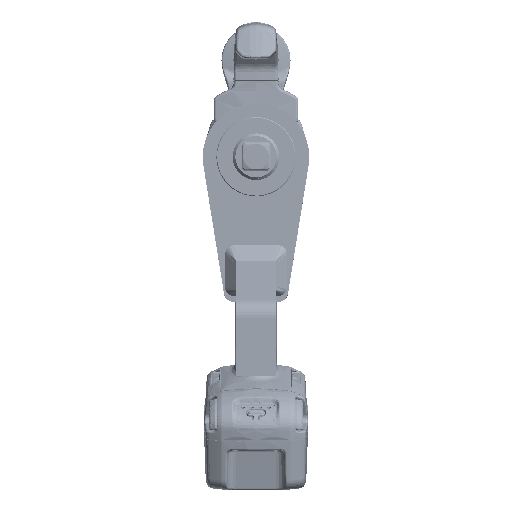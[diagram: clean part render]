
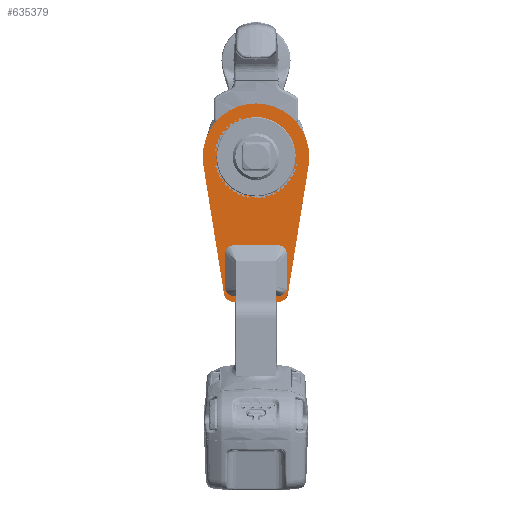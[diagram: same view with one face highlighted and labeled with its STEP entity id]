
A CAD part, top view. The second image highlights one B-rep face of the part: STEP entity #635379.
In plain terms, the highlighted planar face has unit normal (0, 0, 1).
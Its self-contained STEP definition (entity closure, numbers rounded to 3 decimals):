
#634934=DIRECTION('',(0.159,-0.987,
0.));
#634935=VECTOR('',#634934,97.58);
#634936=CARTESIAN_POINT('',(-39.493,-6.345,234.));
#634937=LINE('',#634936,#634935);
#634938=CARTESIAN_POINT('',(0.,0.,234.));
#634939=DIRECTION('',(0.,0.,1.));
#634940=DIRECTION('',(0.,1.,0.));
#634941=AXIS2_PLACEMENT_3D('',#634938,#634939,#634940);
#634943=CARTESIAN_POINT('',(0.,0.,234.));
#634944=DIRECTION('',(0.,0.,1.));
#634945=DIRECTION('',(0.987,-0.159,0.));
#634946=AXIS2_PLACEMENT_3D('',#634943,#634944,#634945);
#634948=DIRECTION('',(0.159,0.987,0.));
#634949=VECTOR('',#634948,97.58);
#634950=CARTESIAN_POINT('',(24.014,-102.69,234.));
#634951=LINE('',#634950,#634949);
#634952=CARTESIAN_POINT('',(16.609,-101.5,234.));
#634953=DIRECTION('',(0.,0.,1.));
#634954=DIRECTION('',(0.,-1.,0.));
#634955=AXIS2_PLACEMENT_3D('',#634952,#634953,#634954);
#634957=CARTESIAN_POINT('',(-16.609,-101.5,234.));
#634958=DIRECTION('',(0.,0.,1.));
#634959=DIRECTION('',(-0.987,-0.159,
0.));
#634960=AXIS2_PLACEMENT_3D('',#634957,#634958,#634959);
#635002=DIRECTION('',(-1.,0.,0.));
#635003=VECTOR('',#635002,33.218);
#635004=CARTESIAN_POINT('',(16.609,-109.,234.));
#635005=LINE('',#635004,#635003);
#635282=CARTESIAN_POINT('',(-39.493,-6.345,234.));
#635283=CARTESIAN_POINT('',(-24.014,-102.69,234.));
#635284=VERTEX_POINT('',#635282);
#635285=VERTEX_POINT('',#635283);
#635286=CARTESIAN_POINT('',(-16.609,-109.,234.));
#635287=VERTEX_POINT('',#635286);
#635288=CARTESIAN_POINT('',(16.609,-109.,234.));
#635289=VERTEX_POINT('',#635288);
#635290=CARTESIAN_POINT('',(24.014,-102.69,234.));
#635291=VERTEX_POINT('',#635290);
#635292=CARTESIAN_POINT('',(39.493,-6.345,234.));
#635293=VERTEX_POINT('',#635292);
#635294=CARTESIAN_POINT('',(0.,40.,234.));
#635295=VERTEX_POINT('',#635294);
#635358=CARTESIAN_POINT('',(0.,0.,234.));
#635359=DIRECTION('',(0.,0.,1.));
#635360=DIRECTION('',(0.,1.,0.));
#635361=AXIS2_PLACEMENT_3D('',#635358,#635359,#635360);
#635362=PLANE('',#635361);
#635364=ORIENTED_EDGE('',*,*,#635363,.F.);
#635366=ORIENTED_EDGE('',*,*,#635365,.F.);
#635368=ORIENTED_EDGE('',*,*,#635367,.F.);
#635370=ORIENTED_EDGE('',*,*,#635369,.F.);
#635372=ORIENTED_EDGE('',*,*,#635371,.F.);
#635374=ORIENTED_EDGE('',*,*,#635373,.T.);
#635376=ORIENTED_EDGE('',*,*,#635375,.F.);
#635377=EDGE_LOOP('',(#635364,#635366,#635368,#635370,#635372,#635374,#635376));
#635378=FACE_OUTER_BOUND('',#635377,.F.);
#635379=ADVANCED_FACE('',(#635378),#635362,.T.);
#634942=CIRCLE('',#634941,40.);
#634947=CIRCLE('',#634946,40.);
#634956=CIRCLE('',#634955,7.5);
#634961=CIRCLE('',#634960,7.5);
#635363=EDGE_CURVE('',#635284,#635285,#634937,.T.);
#635365=EDGE_CURVE('',#635295,#635284,#634942,.T.);
#635367=EDGE_CURVE('',#635293,#635295,#634947,.T.);
#635369=EDGE_CURVE('',#635291,#635293,#634951,.T.);
#635371=EDGE_CURVE('',#635289,#635291,#634956,.T.);
#635373=EDGE_CURVE('',#635289,#635287,#635005,.T.);
#635375=EDGE_CURVE('',#635285,#635287,#634961,.T.);
